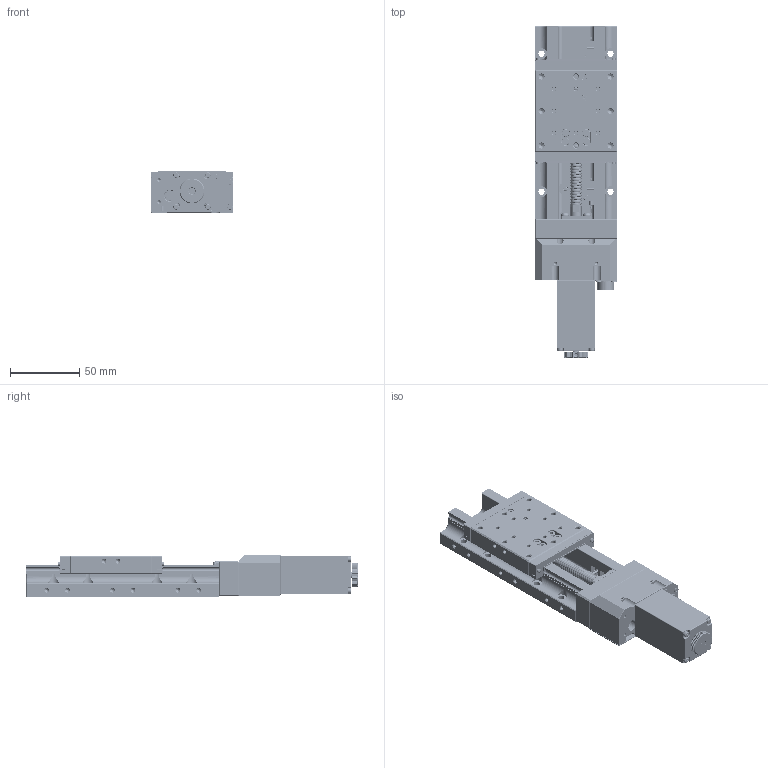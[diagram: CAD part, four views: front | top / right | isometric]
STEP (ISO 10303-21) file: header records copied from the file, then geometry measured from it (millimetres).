
FILE_DESCRIPTION (( 'STEP AP214' ), '1' );
FILE_NAME ('TXH6050B-L2-M28.STEP', '2025-01-03T08:55:42', ( '' ), ( '' ), 'SwSTEP 2.0', 'SolidWorks 2020', '' );
FILE_SCHEMA (( 'AUTOMOTIVE_DESIGN' ));
Length unit declared in the file: millimetre
Products named in the file (1): TXH6050B-L2-M28
Bounding box: 60 x 240.5 x 30.5 mm (x, y, z)
Volume: 239994.4 mm3; surface area: 131739.1 mm2
Topology: 210 solids, 226 shells, 4546 faces, 11531 edges, 7251 vertices
Faces by surface type: plane 1913, cylinder 1303, cone 710, torus 268, sphere 262, bspline 90
Entity records: 214423 total; most frequent: CARTESIAN_POINT 56270, DIRECTION 22287, ORIENTED_EDGE 21600, EDGE_CURVE 10800, AXIS2_PLACEMENT_3D 8252, VERTEX_POINT 6908, VECTOR 5783, LINE 5783
